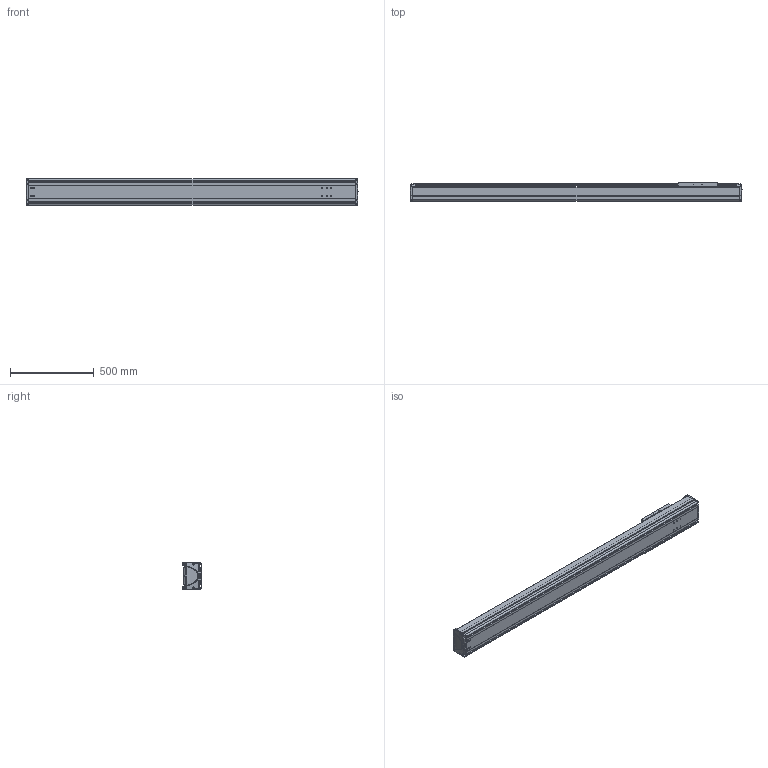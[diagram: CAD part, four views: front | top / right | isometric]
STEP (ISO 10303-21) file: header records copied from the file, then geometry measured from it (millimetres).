
FILE_DESCRIPTION((''),'2;1');
FILE_NAME('BE50G-ST-L_N-F5_IGS_PRT','2017-06-18T',(' '),(''),'PRO/ENGINEER BY PARAMETRIC TECHNOLOGY CORPORATION, 2015030','PRO/ENGINEER BY PARAMETRIC TECHNOLOGY CORPORATION, 2015030','');
FILE_SCHEMA(('CONFIG_CONTROL_DESIGN'));
Length unit declared in the file: millimetre
Products named in the file (1): BE50G-ST-L_N-F5_IGS_PRT
Bounding box: 1979.98 x 110 x 160 mm (x, y, z)
Volume: 8230991.2 mm3; surface area: 2976903.9 mm2
Topology: 3 solids, 118 shells, 1796 faces, 4846 edges, 3133 vertices
Faces by surface type: cylinder 850, plane 617, bspline 102, cone 100, torus 87, sphere 40
Entity records: 62614 total; most frequent: CARTESIAN_POINT 18129, ORIENTED_EDGE 9166, DIRECTION 9036, EDGE_CURVE 4810, AXIS2_PLACEMENT_3D 3416, VERTEX_POINT 3125, VECTOR 2204, LINE 2204
